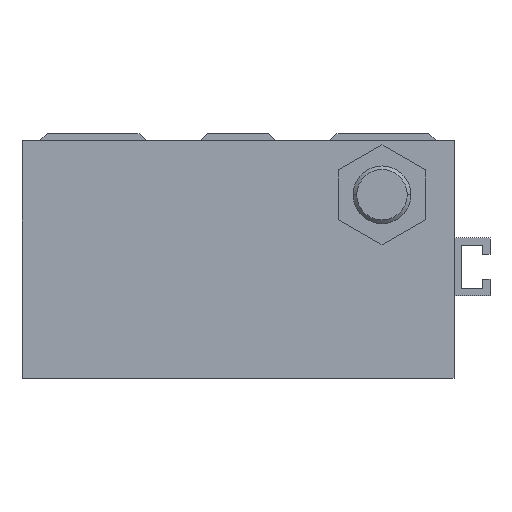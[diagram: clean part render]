
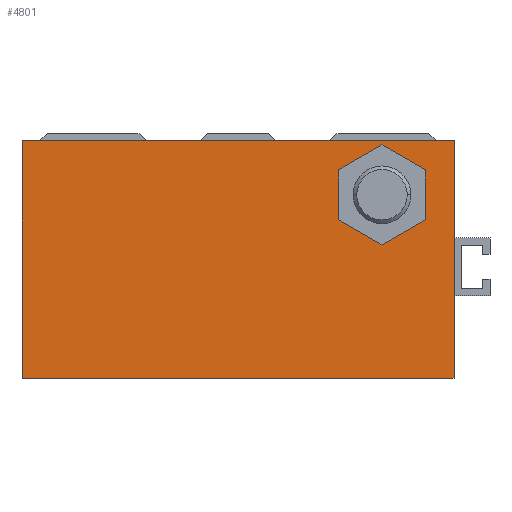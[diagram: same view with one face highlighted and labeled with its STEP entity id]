
A CAD part, front view. The second image highlights one B-rep face of the part: STEP entity #4801.
In plain terms, the highlighted planar face has unit normal (0, -1, 0).
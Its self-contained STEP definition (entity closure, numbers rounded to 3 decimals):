
#4189=CARTESIAN_POINT('',(30.0,0.0,33.0));
#4190=VERTEX_POINT('',#4189);
#4197=CARTESIAN_POINT('',(30.0,0.0,0.0));
#4198=VERTEX_POINT('',#4197);
#4199=CARTESIAN_POINT('',(30.0,0.0,0.0));
#4200=DIRECTION('',(0.0,0.0,1.0));
#4201=VECTOR('',#4200,33.0);
#4202=LINE('',#4199,#4201);
#4203=EDGE_CURVE('',#4198,#4190,#4202,.T.);
#4303=CARTESIAN_POINT('',(-30.0,0.0,33.0));
#4304=VERTEX_POINT('',#4303);
#4342=CARTESIAN_POINT('',(-30.0,0.0,0.0));
#4343=VERTEX_POINT('',#4342);
#4350=CARTESIAN_POINT('',(-30.0,0.0,33.0));
#4351=DIRECTION('',(0.0,0.0,-1.0));
#4352=VECTOR('',#4351,33.0);
#4353=LINE('',#4350,#4352);
#4354=EDGE_CURVE('',#4304,#4343,#4353,.T.);
#4378=CARTESIAN_POINT('',(26.,0.0,22.036));
#4379=VERTEX_POINT('',#4378);
#4386=CARTESIAN_POINT('',(26.,0.0,28.964));
#4387=VERTEX_POINT('',#4386);
#4388=CARTESIAN_POINT('',(26.,0.0,28.964));
#4389=DIRECTION('',(0.0,0.0,-1.0));
#4390=VECTOR('',#4389,6.928);
#4391=LINE('',#4388,#4390);
#4392=EDGE_CURVE('',#4387,#4379,#4391,.T.);
#4416=CARTESIAN_POINT('',(20.,0.0,18.572));
#4417=VERTEX_POINT('',#4416);
#4424=CARTESIAN_POINT('',(26.,0.0,22.036));
#4425=DIRECTION('',(-0.866,0.0,-0.5));
#4426=VECTOR('',#4425,6.928);
#4427=LINE('',#4424,#4426);
#4428=EDGE_CURVE('',#4379,#4417,#4427,.T.);
#4447=CARTESIAN_POINT('',(14.,0.0,22.036));
#4448=VERTEX_POINT('',#4447);
#4455=CARTESIAN_POINT('',(20.,0.0,18.572));
#4456=DIRECTION('',(-0.866,0.0,0.5));
#4457=VECTOR('',#4456,6.928);
#4458=LINE('',#4455,#4457);
#4459=EDGE_CURVE('',#4417,#4448,#4458,.T.);
#4478=CARTESIAN_POINT('',(14.,0.0,28.964));
#4479=VERTEX_POINT('',#4478);
#4486=CARTESIAN_POINT('',(14.,0.0,22.036));
#4487=DIRECTION('',(0.0,0.0,1.0));
#4488=VECTOR('',#4487,6.928);
#4489=LINE('',#4486,#4488);
#4490=EDGE_CURVE('',#4448,#4479,#4489,.T.);
#4509=CARTESIAN_POINT('',(20.,0.0,32.428));
#4510=VERTEX_POINT('',#4509);
#4517=CARTESIAN_POINT('',(14.,0.0,28.964));
#4518=DIRECTION('',(0.866,0.0,0.5));
#4519=VECTOR('',#4518,6.928);
#4520=LINE('',#4517,#4519);
#4521=EDGE_CURVE('',#4479,#4510,#4520,.T.);
#4539=CARTESIAN_POINT('',(20.,0.0,32.428));
#4540=DIRECTION('',(0.866,0.0,-0.5));
#4541=VECTOR('',#4540,6.928);
#4542=LINE('',#4539,#4541);
#4543=EDGE_CURVE('',#4510,#4387,#4542,.T.);
#4766=CARTESIAN_POINT('',(30.0,0.0,0.0));
#4767=DIRECTION('',(-1.0,0.0,0.0));
#4768=VECTOR('',#4767,60.0);
#4769=LINE('',#4766,#4768);
#4770=EDGE_CURVE('',#4198,#4343,#4769,.T.);
#4777=CARTESIAN_POINT('',(0.0,0.0,0.0));
#4778=DIRECTION('',(0.0,-1.0,0.0));
#4779=DIRECTION('',(0.0,0.0,-1.0));
#4780=AXIS2_PLACEMENT_3D('',#4777,#4778,#4779);
#4781=PLANE('',#4780);
#4782=ORIENTED_EDGE('',*,*,#4203,.T.);
#4783=CARTESIAN_POINT('',(30.0,0.0,33.0));
#4784=DIRECTION('',(-1.0,0.0,0.0));
#4785=VECTOR('',#4784,60.0);
#4786=LINE('',#4783,#4785);
#4787=EDGE_CURVE('',#4190,#4304,#4786,.T.);
#4788=ORIENTED_EDGE('',*,*,#4787,.T.);
#4789=ORIENTED_EDGE('',*,*,#4354,.T.);
#4790=ORIENTED_EDGE('',*,*,#4770,.F.);
#4791=EDGE_LOOP('',(#4782,#4788,#4789,#4790));
#4792=FACE_OUTER_BOUND('',#4791,.T.);
#4793=ORIENTED_EDGE('',*,*,#4392,.T.);
#4794=ORIENTED_EDGE('',*,*,#4428,.T.);
#4795=ORIENTED_EDGE('',*,*,#4459,.T.);
#4796=ORIENTED_EDGE('',*,*,#4490,.T.);
#4797=ORIENTED_EDGE('',*,*,#4521,.T.);
#4798=ORIENTED_EDGE('',*,*,#4543,.T.);
#4799=EDGE_LOOP('',(#4793,#4794,#4795,#4796,#4797,#4798));
#4800=FACE_BOUND('',#4799,.T.);
#4801=ADVANCED_FACE('',(#4792,#4800),#4781,.T.);
